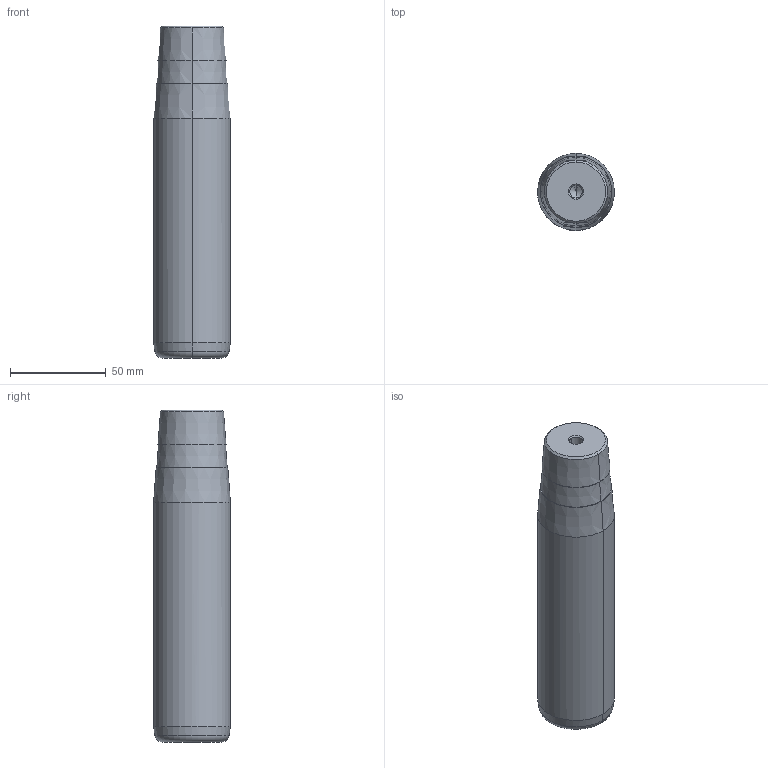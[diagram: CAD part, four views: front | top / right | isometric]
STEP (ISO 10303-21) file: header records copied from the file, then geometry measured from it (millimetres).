
FILE_DESCRIPTION(('CATIA V5 STEP Exchange'),'2;1');
FILE_NAME('C:\Users\Utente\Desktop\IO LAVORO\3D X SITO CF\X SITO\722\722-40x140x173.stp','2021-01-08T15:37:35+00:00',('none'),('none'),'CATIA Version 5 Release 20 GA (IN-10)','CATIA V5 STEP AP203','none');
FILE_SCHEMA(('CONFIG_CONTROL_DESIGN'));
Length unit declared in the file: millimetre
Products named in the file (1): 722-40x140x173
Bounding box: 40 x 40 x 173 mm (x, y, z)
Volume: 204037.7 mm3; surface area: 24076.7 mm2
Topology: 1 solids, 1 shells, 32 faces, 98 edges, 66 vertices
Faces by surface type: cone 22, cylinder 6, plane 2, torus 2
Entity records: 1166 total; most frequent: CARTESIAN_POINT 279, ORIENTED_EDGE 188, DIRECTION 148, EDGE_CURVE 94, AXIS2_PLACEMENT_3D 89, VERTEX_POINT 66, CIRCLE 56, EDGE_LOOP 34
